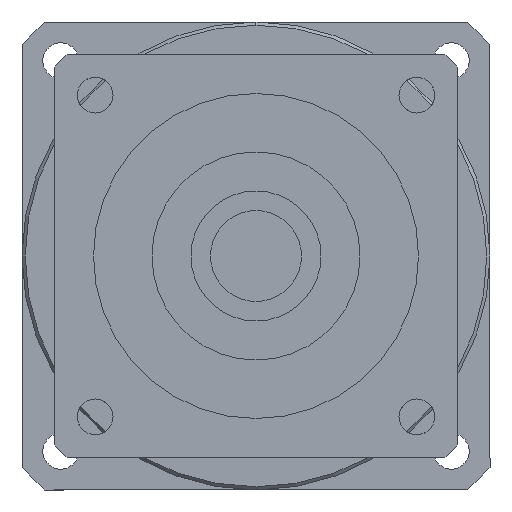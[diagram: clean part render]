
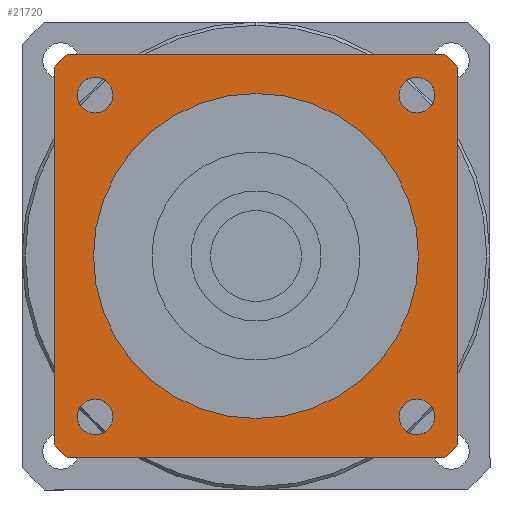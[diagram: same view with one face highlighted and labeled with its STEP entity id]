
A CAD part, left-side view. The second image highlights one B-rep face of the part: STEP entity #21720.
In plain terms, the highlighted planar face has unit normal (-1, 0, 0) as drawn and (0, 0, -1) by its records, which use the part's own axes.
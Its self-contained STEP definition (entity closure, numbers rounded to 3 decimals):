
#15830=CARTESIAN_POINT('',(29.073,31.,-96.5));
#15840=VERTEX_POINT('',#15830);
#15870=CARTESIAN_POINT('',(0.,0.,
-96.5));
#15880=DIRECTION('',(0.,0.,1.));
#15890=DIRECTION('',(0.,-1.,0.));
#15900=AXIS2_PLACEMENT_3D('',#15870,#15880,#15890);
#15910=CIRCLE('',#15900,42.5);
#15920=CARTESIAN_POINT('',(31.,29.073,-96.5));
#15930=VERTEX_POINT('',#15920);
#15940=EDGE_CURVE('',#15930,#15840,#15910,.T.);
#18330=CARTESIAN_POINT('',(-29.073,31.,-96.5));
#18340=VERTEX_POINT('',#18330);
#18420=CARTESIAN_POINT('',(-31.,29.073,-96.5));
#18430=VERTEX_POINT('',#18420);
#18460=CARTESIAN_POINT('',(0.,0.,
-96.5));
#18470=DIRECTION('',(0.,0.,1.));
#18480=DIRECTION('',(0.,-1.,0.));
#18490=AXIS2_PLACEMENT_3D('',#18460,#18470,#18480);
#18500=CIRCLE('',#18490,42.5);
#18510=EDGE_CURVE('',#18340,#18430,#18500,.T.);
#19020=CARTESIAN_POINT('',(-31.,-29.073,-96.5));
#19030=VERTEX_POINT('',#19020);
#19110=CARTESIAN_POINT('',(-29.073,-31.,-96.5));
#19120=VERTEX_POINT('',#19110);
#19150=CARTESIAN_POINT('',(0.,0.,
-96.5));
#19160=DIRECTION('',(0.,0.,1.));
#19170=DIRECTION('',(0.,-1.,0.));
#19180=AXIS2_PLACEMENT_3D('',#19150,#19160,#19170);
#19190=CIRCLE('',#19180,42.5);
#19200=EDGE_CURVE('',#19030,#19120,#19190,.T.);
#19670=CARTESIAN_POINT('',(29.073,-31.,-96.5));
#19680=VERTEX_POINT('',#19670);
#19760=CARTESIAN_POINT('',(31.,-29.073,-96.5));
#19770=VERTEX_POINT('',#19760);
#19800=CARTESIAN_POINT('',(0.,0.,
-96.5));
#19810=DIRECTION('',(0.,0.,1.));
#19820=DIRECTION('',(0.,-1.,0.));
#19830=AXIS2_PLACEMENT_3D('',#19800,#19810,#19820);
#19840=CIRCLE('',#19830,42.5);
#19850=EDGE_CURVE('',#19680,#19770,#19840,.T.);
#20000=CARTESIAN_POINT('',(31.,-31.,-96.5));
#20010=DIRECTION('',(0.,1.,0.));
#20020=VECTOR('',#20010,1000.);
#20030=LINE('',#20000,#20020);
#20040=EDGE_CURVE('',#19770,#15930,#20030,.T.);
#20190=CARTESIAN_POINT('',(31.,31.,-96.5));
#20200=DIRECTION('',(-1.,0.,0.));
#20210=VECTOR('',#20200,1000.);
#20220=LINE('',#20190,#20210);
#20230=EDGE_CURVE('',#15840,#18340,#20220,.T.);
#20370=CARTESIAN_POINT('',(-24.749,21.999,-96.5));
#20380=VERTEX_POINT('',#20370);
#20470=CARTESIAN_POINT('',(-24.749,27.499,-96.5));
#20480=VERTEX_POINT('',#20470);
#20510=CARTESIAN_POINT('',(-24.749,24.749,-96.5));
#20520=DIRECTION('',(0.,0.,-1.));
#20530=DIRECTION('',(-1.,0.,0.));
#20540=AXIS2_PLACEMENT_3D('',#20510,#20520,#20530);
#20550=CIRCLE('',#20540,2.75);
#20560=CARTESIAN_POINT('',(-27.499,24.749,-96.5));
#20570=VERTEX_POINT('',#20560);
#20580=EDGE_CURVE('',#20570,#20480,#20550,.T.);
#20600=EDGE_CURVE('',#20380,#20570,#20550,.T.);
#20650=CARTESIAN_POINT('',(-31.,31.,-96.5));
#20660=DIRECTION('',(0.,0.,1.));
#20670=DIRECTION('',(-1.,0.,0.));
#20680=AXIS2_PLACEMENT_3D('',#20650,#20660,#20670);
#20690=PLANE('',#20680);
#20700=CARTESIAN_POINT('',(24.749,-24.749,-96.5));
#20710=DIRECTION('',(0.,0.,-1.));
#20720=DIRECTION('',(1.,0.,0.));
#20730=AXIS2_PLACEMENT_3D('',#20700,#20710,#20720);
#20740=CIRCLE('',#20730,2.75);
#20750=CARTESIAN_POINT('',(27.499,-24.749,-96.5));
#20760=VERTEX_POINT('',#20750);
#20770=CARTESIAN_POINT('',(24.749,-27.499,-96.5));
#20780=VERTEX_POINT('',#20770);
#20790=EDGE_CURVE('',#20760,#20780,#20740,.T.);
#20800=ORIENTED_EDGE('',*,*,#20790,.F.);
#20810=CARTESIAN_POINT('',(24.749,-21.999,-96.5));
#20820=VERTEX_POINT('',#20810);
#20830=EDGE_CURVE('',#20780,#20820,#20740,.T.);
#20840=ORIENTED_EDGE('',*,*,#20830,.F.);
#20850=EDGE_CURVE('',#20820,#20760,#20740,.T.);
#20860=ORIENTED_EDGE('',*,*,#20850,.F.);
#20870=EDGE_LOOP('',(#20860,#20840,#20800));
#20880=FACE_BOUND('',#20870,.T.);
#20890=CARTESIAN_POINT('',(24.749,24.749,-96.5));
#20900=DIRECTION('',(0.,0.,-1.));
#20910=DIRECTION('',(0.,1.,0.));
#20920=AXIS2_PLACEMENT_3D('',#20890,#20900,#20910);
#20930=CIRCLE('',#20920,2.75);
#20940=CARTESIAN_POINT('',(24.749,27.499,-96.5));
#20950=VERTEX_POINT('',#20940);
#20960=CARTESIAN_POINT('',(27.499,24.749,-96.5));
#20970=VERTEX_POINT('',#20960);
#20980=EDGE_CURVE('',#20950,#20970,#20930,.T.);
#20990=ORIENTED_EDGE('',*,*,#20980,.F.);
#21000=CARTESIAN_POINT('',(21.999,24.749,-96.5));
#21010=VERTEX_POINT('',#21000);
#21020=EDGE_CURVE('',#20970,#21010,#20930,.T.);
#21030=ORIENTED_EDGE('',*,*,#21020,.F.);
#21040=EDGE_CURVE('',#21010,#20950,#20930,.T.);
#21050=ORIENTED_EDGE('',*,*,#21040,.F.);
#21060=EDGE_LOOP('',(#21050,#21030,#20990));
#21070=FACE_BOUND('',#21060,.T.);
#21080=ORIENTED_EDGE('',*,*,#20580,.F.);
#21090=EDGE_CURVE('',#20480,#20380,#20550,.T.);
#21100=ORIENTED_EDGE('',*,*,#21090,.F.);
#21110=ORIENTED_EDGE('',*,*,#20600,.F.);
#21120=EDGE_LOOP('',(#21110,#21100,#21080));
#21130=FACE_BOUND('',#21120,.T.);
#21140=CARTESIAN_POINT('',(-24.749,-24.749,-96.5));
#21150=DIRECTION('',(0.,0.,-1.));
#21160=DIRECTION('',(0.,-1.,0.));
#21170=AXIS2_PLACEMENT_3D('',#21140,#21150,#21160);
#21180=CIRCLE('',#21170,2.75);
#21190=CARTESIAN_POINT('',(-24.749,-27.499,-96.5));
#21200=VERTEX_POINT('',#21190);
#21210=CARTESIAN_POINT('',(-27.499,-24.749,-96.5));
#21220=VERTEX_POINT('',#21210);
#21230=EDGE_CURVE('',#21200,#21220,#21180,.T.);
#21240=ORIENTED_EDGE('',*,*,#21230,.F.);
#21250=CARTESIAN_POINT('',(-21.999,-24.749,-96.5));
#21260=VERTEX_POINT('',#21250);
#21270=EDGE_CURVE('',#21220,#21260,#21180,.T.);
#21280=ORIENTED_EDGE('',*,*,#21270,.F.);
#21290=EDGE_CURVE('',#21260,#21200,#21180,.T.);
#21300=ORIENTED_EDGE('',*,*,#21290,.F.);
#21310=EDGE_LOOP('',(#21300,#21280,#21240));
#21320=FACE_BOUND('',#21310,.T.);
#21330=ORIENTED_EDGE('',*,*,#19200,.F.);
#21340=CARTESIAN_POINT('',(-31.,-31.,-96.5));
#21350=DIRECTION('',(1.,0.,0.));
#21360=VECTOR('',#21350,1000.);
#21370=LINE('',#21340,#21360);
#21380=EDGE_CURVE('',#19120,#19680,#21370,.T.);
#21390=ORIENTED_EDGE('',*,*,#21380,.F.);
#21400=ORIENTED_EDGE('',*,*,#19850,.F.);
#21410=ORIENTED_EDGE('',*,*,#20040,.F.);
#21420=ORIENTED_EDGE('',*,*,#15940,.F.);
#21430=ORIENTED_EDGE('',*,*,#20230,.F.);
#21440=ORIENTED_EDGE('',*,*,#18510,.F.);
#21450=CARTESIAN_POINT('',(-31.,31.,-96.5));
#21460=DIRECTION('',(0.,-1.,0.));
#21470=VECTOR('',#21460,1000.);
#21480=LINE('',#21450,#21470);
#21490=EDGE_CURVE('',#18430,#19030,#21480,.T.);
#21500=ORIENTED_EDGE('',*,*,#21490,.F.);
#21510=EDGE_LOOP('',(#21500,#21440,#21430,#21420,#21410,#21400,#21390,
#21330));
#21520=FACE_OUTER_BOUND('',#21510,.T.);
#21530=CARTESIAN_POINT('',(0.,0.,
-96.5));
#21540=DIRECTION('',(0.,0.,1.));
#21550=DIRECTION('',(0.,-1.,0.));
#21560=AXIS2_PLACEMENT_3D('',#21530,#21540,#21550);
#21570=CIRCLE('',#21560,25.);
#21580=CARTESIAN_POINT('',(25.,0.,-96.5));
#21590=VERTEX_POINT('',#21580);
#21600=CARTESIAN_POINT('',(-25.,0.,-96.5));
#21610=VERTEX_POINT('',#21600);
#21620=EDGE_CURVE('',#21590,#21610,#21570,.T.);
#21630=ORIENTED_EDGE('',*,*,#21620,.T.);
#21640=CARTESIAN_POINT('',(0.,-25.,-96.5));
#21650=VERTEX_POINT('',#21640);
#21660=EDGE_CURVE('',#21650,#21590,#21570,.T.);
#21670=ORIENTED_EDGE('',*,*,#21660,.T.);
#21680=EDGE_CURVE('',#21610,#21650,#21570,.T.);
#21690=ORIENTED_EDGE('',*,*,#21680,.T.);
#21700=EDGE_LOOP('',(#21690,#21670,#21630));
#21710=FACE_BOUND('',#21700,.T.);
#21720=ADVANCED_FACE('',(#20880,#21070,#21130,#21320,#21520,#21710),
#20690,.F.);
